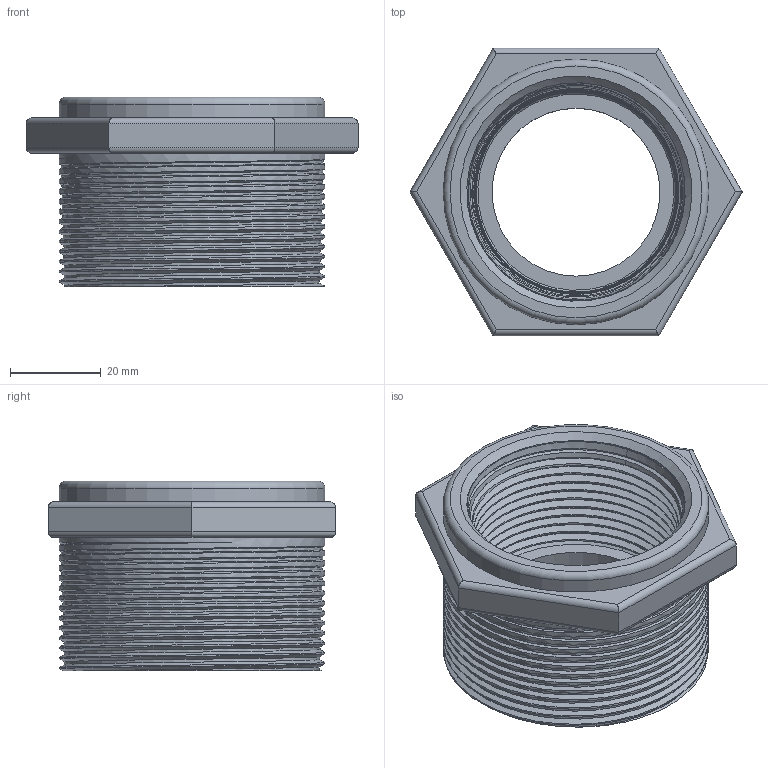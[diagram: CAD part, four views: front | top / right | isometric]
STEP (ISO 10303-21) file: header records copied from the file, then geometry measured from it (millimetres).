
FILE_DESCRIPTION(/* description */ ('Alibre Inc.'),/* implementation_level */ '2;1');
FILE_NAME(/* name */ 'export0',/* time_stamp */ '2016-05-11T10:22:26-04:00',/* author */ (''),/* organization */ (''),/* preprocessor_version */ 'ST-DEVELOPER v14',/* originating_system */ 'Alibre',/* authorisation */ '');
FILE_SCHEMA (('CONFIG_CONTROL_DESIGN'));
Length unit declared in the file: centimetre
Products named in the file (1): ID_3
Bounding box: 73.32 x 63.5 x 41.91 mm (x, y, z)
Volume: 55016.5 mm3; surface area: 21778.5 mm2
Topology: 1 solids, 1 shells, 88 faces, 231 edges, 148 vertices
Faces by surface type: cone 41, cylinder 28, plane 11, bspline 6, torus 2
Full cylindrical faces by diameter (mm): 37.084 x1, 58.674 x12
Entity records: 48826 total; most frequent: CARTESIAN_POINT 47087, ORIENTED_EDGE 378, DIRECTION 265, EDGE_CURVE 189, VERTEX_POINT 123, AXIS2_PLACEMENT_3D 105, EDGE_LOOP 88, FACE_BOUND 88
